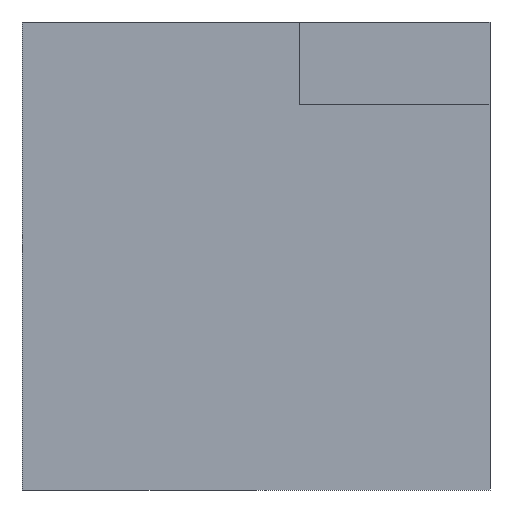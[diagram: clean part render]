
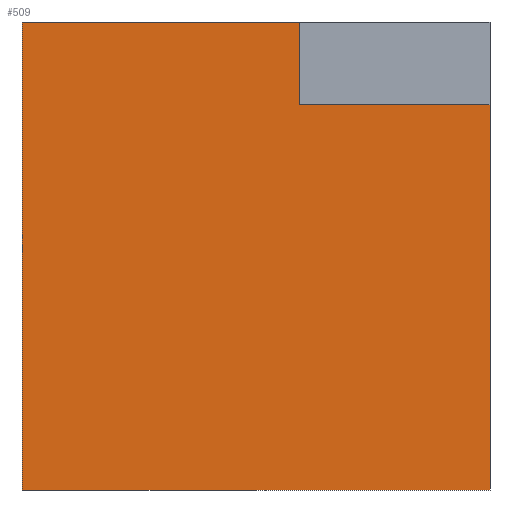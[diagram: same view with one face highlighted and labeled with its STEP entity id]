
A CAD part, left-side view. The second image highlights one B-rep face of the part: STEP entity #509.
In plain terms, the highlighted planar face has unit normal (-1, 0, 0).
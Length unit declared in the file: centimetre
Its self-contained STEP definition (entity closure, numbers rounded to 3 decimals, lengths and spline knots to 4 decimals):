
#8 = DIRECTION ( 'NONE',  ( 1., 0., 0. ) ) ;
#10 = EDGE_CURVE ( 'NONE', #528, #140, #461, .T. ) ;
#14 = ORIENTED_EDGE ( 'NONE', *, *, #395, .F. ) ;
#18 = LINE ( 'NONE', #390, #405 ) ;
#23 = CARTESIAN_POINT ( 'NONE',  ( 0., 407.3542, 1000. ) ) ;
#28 = LINE ( 'NONE', #206, #387 ) ;
#29 = AXIS2_PLACEMENT_3D ( 'NONE', #382, #8, #342 ) ;
#44 = CARTESIAN_POINT ( 'NONE',  ( 0., 407.3542, 823.3338 ) ) ;
#53 = DIRECTION ( 'NONE',  ( 0., 0., -1. ) ) ;
#65 = VECTOR ( 'NONE', #53, 100. ) ;
#75 = DIRECTION ( 'NONE',  ( 0., -1., 0. ) ) ;
#98 = ORIENTED_EDGE ( 'NONE', *, *, #10, .F. ) ;
#118 = LINE ( 'NONE', #399, #196 ) ;
#120 = DIRECTION ( 'NONE',  ( 0., -1., 0. ) ) ;
#133 = ORIENTED_EDGE ( 'NONE', *, *, #494, .F. ) ;
#140 = VERTEX_POINT ( 'NONE', #151 ) ;
#145 = EDGE_CURVE ( 'NONE', #422, #140, #18, .T. ) ;
#151 = CARTESIAN_POINT ( 'NONE',  ( 0., 0., 0. ) ) ;
#159 = DIRECTION ( 'NONE',  ( 0., 0., -1. ) ) ;
#179 = CARTESIAN_POINT ( 'NONE',  ( 0., 0., 823.3338 ) ) ;
#196 = VECTOR ( 'NONE', #159, 100. ) ;
#206 = CARTESIAN_POINT ( 'NONE',  ( 0., 407.3542, 823.3338 ) ) ;
#208 = VERTEX_POINT ( 'NONE', #23 ) ;
#210 = LINE ( 'NONE', #497, #296 ) ;
#213 = DIRECTION ( 'NONE',  ( 0., 0., -1. ) ) ;
#222 = CARTESIAN_POINT ( 'NONE',  ( 0., 407.3542, 823.3338 ) ) ;
#223 = ORIENTED_EDGE ( 'NONE', *, *, #145, .T. ) ;
#252 = FACE_OUTER_BOUND ( 'NONE', #366, .T. ) ;
#258 = PLANE ( 'NONE',  #29 ) ;
#282 = EDGE_CURVE ( 'NONE', #510, #208, #210, .T. ) ;
#292 = VECTOR ( 'NONE', #213, 100. ) ;
#296 = VECTOR ( 'NONE', #456, 100. ) ;
#342 = DIRECTION ( 'NONE',  ( 0., 0., -1. ) ) ;
#343 = EDGE_CURVE ( 'NONE', #510, #422, #118, .T. ) ;
#366 = EDGE_LOOP ( 'NONE', ( #98, #14, #133, #535, #468, #223 ) ) ;
#382 = CARTESIAN_POINT ( 'NONE',  ( 0., 1000., 1000. ) ) ;
#387 = VECTOR ( 'NONE', #120, 100. ) ;
#390 = CARTESIAN_POINT ( 'NONE',  ( 0., 1000., 0. ) ) ;
#395 = EDGE_CURVE ( 'NONE', #428, #528, #28, .T. ) ;
#399 = CARTESIAN_POINT ( 'NONE',  ( 0., 1000., 1000. ) ) ;
#405 = VECTOR ( 'NONE', #75, 100. ) ;
#415 = LINE ( 'NONE', #222, #292 ) ;
#417 = CARTESIAN_POINT ( 'NONE',  ( 0., 1000., 1000. ) ) ;
#420 = CARTESIAN_POINT ( 'NONE',  ( 0., 0., 1000. ) ) ;
#422 = VERTEX_POINT ( 'NONE', #501 ) ;
#428 = VERTEX_POINT ( 'NONE', #44 ) ;
#456 = DIRECTION ( 'NONE',  ( 0., -1., 0. ) ) ;
#461 = LINE ( 'NONE', #420, #65 ) ;
#468 = ORIENTED_EDGE ( 'NONE', *, *, #343, .T. ) ;
#494 = EDGE_CURVE ( 'NONE', #208, #428, #415, .T. ) ;
#497 = CARTESIAN_POINT ( 'NONE',  ( 0., 1000., 1000. ) ) ;
#501 = CARTESIAN_POINT ( 'NONE',  ( 0., 1000., 0. ) ) ;
#509 = ADVANCED_FACE ( 'NONE', ( #252 ), #258, .F. ) ;
#510 = VERTEX_POINT ( 'NONE', #417 ) ;
#528 = VERTEX_POINT ( 'NONE', #179 ) ;
#535 = ORIENTED_EDGE ( 'NONE', *, *, #282, .F. ) ;
